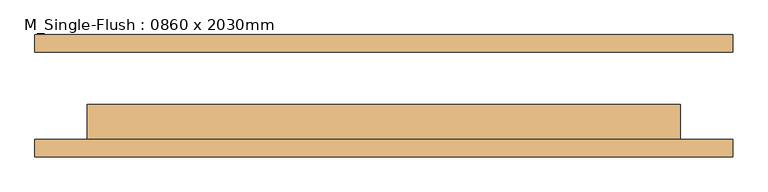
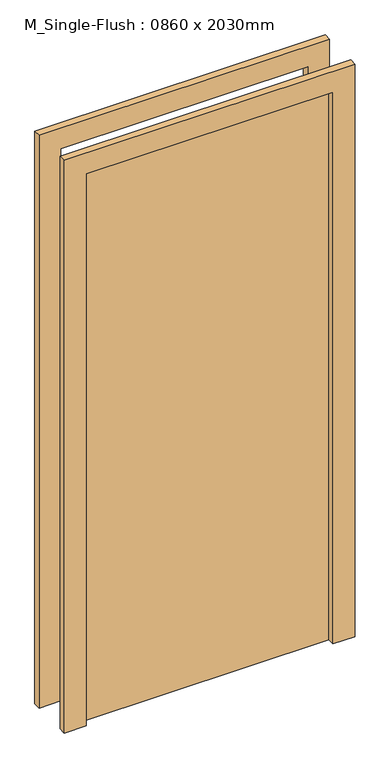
"""IFC4 building model written with IfcOpenShell, lengths in millimetres: door geometry, M_Single-Flush : 0860 x 2030mm."""

from ifc_helpers import new_model, si_unit, frame, origin, origin_with_axes, place, context, project, spatial, polyline, outline, extrude, source, transform, mapped, element, save


def m_single_flush_0860_x_2030mm_8480546f(model_context):
    return source(origin(), model_context, "Body", "SweptSolid", [
        extrude(outline(polyline([(2106.0, -506.0), (0.0, -506.0), (0.0, -430.0), (2030.0, -430.0), (2030.0, 430.0), (0.0, 430.0), (0.0, 506.0), (2106.0, 506.0), (2106.0, -506.0)])), frame((0.0, -88.525, 0.0), z_axis=(0.0, 1.0, 0.0), x_axis=(0.0, 0.0, 1.0)), (0.0, 0.0, 1.0), 25.0),
        extrude(outline(polyline([(2106.0, 506.0), (2106.0, -506.0), (0.0, -506.0), (0.0, -430.0), (2030.0, -430.0), (2030.0, 430.0), (0.0, 430.0), (0.0, 506.0), (2106.0, 506.0)])), frame((0.0, 63.525, 0.0), z_axis=(0.0, 1.0, 0.0), x_axis=(0.0, 0.0, 1.0)), (0.0, 0.0, 1.0), 25.0),
        extrude(outline(polyline([(430.0, -12.525), (430.0, -63.525), (-430.0, -63.525), (-430.0, -12.525), (430.0, -12.525)])), origin_with_axes(), (0.0, 0.0, 1.0), 2030.0),
    ])


if __name__ == "__main__":
    model = new_model("IFC4")
    model_context = context("Model", 3, world=origin())
    ifc_project = project(units=[si_unit("LENGTHUNIT", "METRE", prefix="MILLI")], contexts=[model_context])
    site = spatial("IfcSite", under=ifc_project)
    building = spatial("IfcBuilding", under=site)
    placement = place(None, origin())
    m_single_flush_0860_x_2030mm_shape = m_single_flush_0860_x_2030mm_8480546f(model_context)
    element("IfcDoor", 1, ObjectType="M_Single-Flush : 0860 x 2030mm", at=placement, inside=building, context=model_context, shape_type="MappedRepresentation", body=[
        mapped(m_single_flush_0860_x_2030mm_shape, transform((0.0, 0.0, 0.0), x_axis=(1.0, 0.0, 0.0), y_axis=(0.0, 1.0, 0.0), z_axis=(0.0, 0.0, 1.0))),
    ])
    save(model, "model.ifc")
